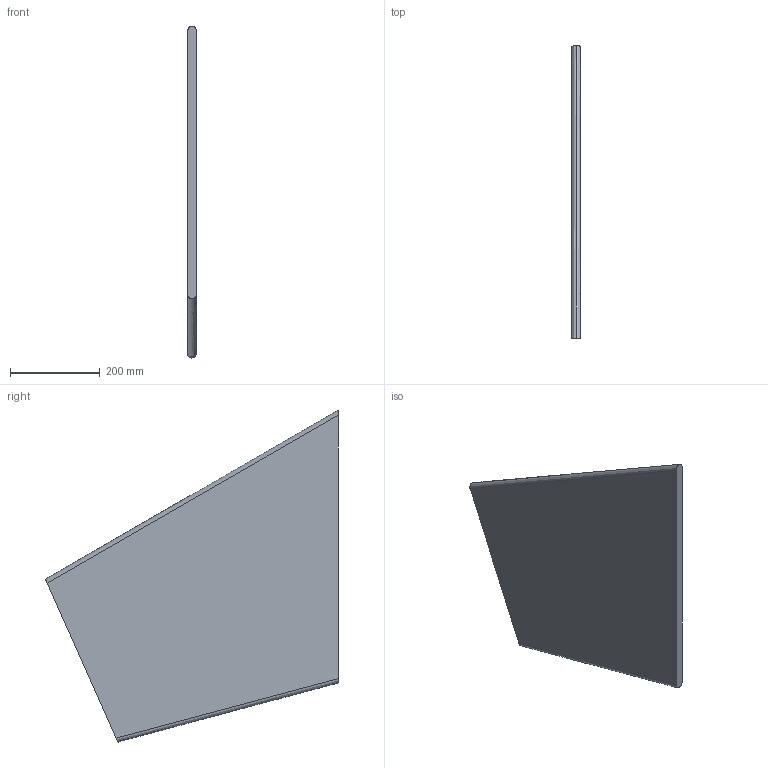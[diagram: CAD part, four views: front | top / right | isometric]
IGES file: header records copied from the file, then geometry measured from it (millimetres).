
Start section:  PTC IGES file: C:\Documents and Settings\Brad\Desktop\IGES\brace_bottom .igs
Global section: file name: C:\Documents and Settings\Brad\Desktop\IGES\brace_bottom.igs; native system: Brad by Parametric Technology Corporation; preprocessor: 2003250; author: Unknown; organization: PTC; date: 040521.142625; units: inch
Bounding box: 19.05 x 654.17 x 741.48 mm (x, y, z)
Volume: 5658145.3 mm3; surface area: 631990.7 mm2
Topology: 1 solids, 1 shells, 7 faces, 15 edges, 10 vertices
Faces by surface type: bspline 5, revolution 2
